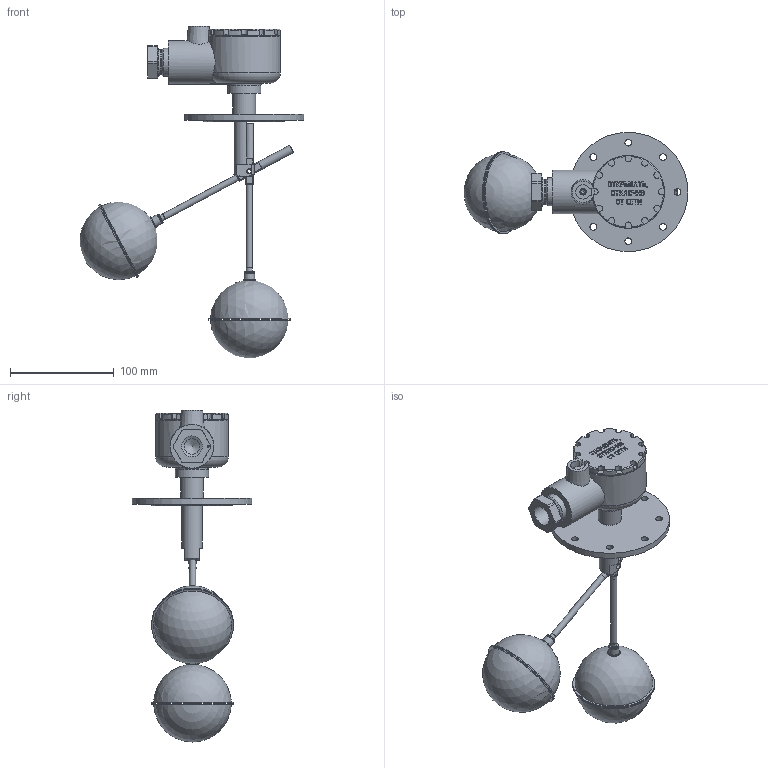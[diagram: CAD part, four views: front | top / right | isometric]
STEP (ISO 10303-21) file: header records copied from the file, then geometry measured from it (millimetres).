
FILE_DESCRIPTION(/* description */ (''),/* implementation_level */ '2;1');
FILE_NAME(/* name */ 'D:\Модели для сайта\РУГ-1-Ех-Вн-Г-10,-11.stp',/* time_stamp */ '2018-07-06T13:48:57+03:00',/* author */ ('hudyakovak'),/* organization */ (''),/* preprocessor_version */ 'ST-DEVELOPER v16.1',/* originating_system */ 'Autodesk Inventor 2016',/* authorisation */ '');
FILE_SCHEMA (('AUTOMOTIVE_DESIGN { 1 0 10303 214 3 1 1 }'));
Length unit declared in the file: millimetre
Products named in the file (1): Деталь7
Bounding box: 215.5 x 115 x 319.75 mm (x, y, z)
Surface area: 144926.1 mm2 (no closed solid volume)
Topology: 0 solids, 13 shells, 654 faces, 1660 edges, 1097 vertices
Faces by surface type: plane 318, bspline 197, cylinder 91, cone 36, torus 6, sphere 6
Full cylindrical faces by diameter (mm): 2 x1, 4 x6, 4.134 x2, 5 x2, 5.8 x4, 6 x2, 6.1 x2, 6.5 x8, 8 x2, 9 x2, 10 x2, 12 x2, 15 x1, 16 x1, 17.294 x1, 20 x1, 20.5 x1, 21 x1, 22 x1, 24 x2, 24.835 x1, 27 x1, 32 x1, 42 x1, 47 x1, 53.8 x1, 56 x1, 70 x1, 79 x4, 115 x1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
Entity records: 20231 total; most frequent: CARTESIAN_POINT 5981, ORIENTED_EDGE 3128, DIRECTION 2280, EDGE_CURVE 1564, VERTEX_POINT 1084, LINE 860, VECTOR 860, EDGE_LOOP 836
